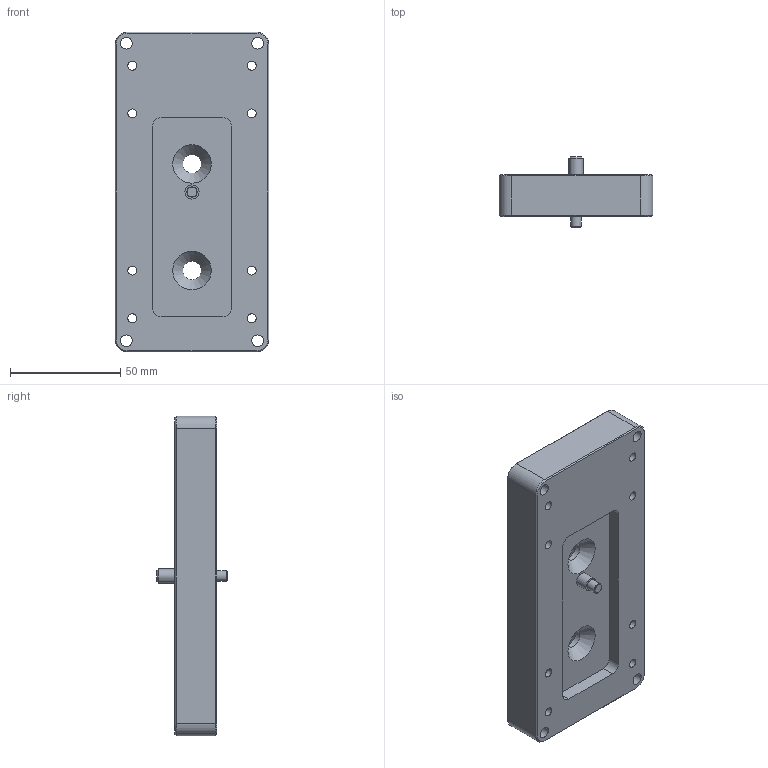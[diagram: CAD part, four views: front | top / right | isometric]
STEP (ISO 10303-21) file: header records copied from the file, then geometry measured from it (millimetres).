
FILE_DESCRIPTION((''),'2;1');
FILE_NAME('F:\CAD files\Itr\3D MARKETING MODELS\ACCESSORIES\AC1058\AC1058.stp','2017-04-24T12:50:08',('mlampen'),(''),'Autodesk Inventor 2010','Autodesk Inventor 2010','');
FILE_SCHEMA(('AUTOMOTIVE_DESIGN { 1 0 10303 214 1 1 1 1 }'));
Length unit declared in the file: inch
Products named in the file (1): Part2
Bounding box: 69.6 x 31.75 x 144.78 mm (x, y, z)
Volume: 163992.3 mm3; surface area: 32554.2 mm2
Topology: 1 solids, 1 shells, 61 faces, 144 edges, 89 vertices
Faces by surface type: cylinder 25, plane 21, cone 14, bspline 1
Full cylindrical faces by diameter (mm): 4.039 x8, 4.75 x1, 5.207 x4, 6.35 x2, 8.382 x2
Entity records: 1714 total; most frequent: DIRECTION 306, CARTESIAN_POINT 273, ORIENTED_EDGE 240, AXIS2_PLACEMENT_3D 125, EDGE_CURVE 120, EDGE_LOOP 116, VERTEX_POINT 88, CIRCLE 64
